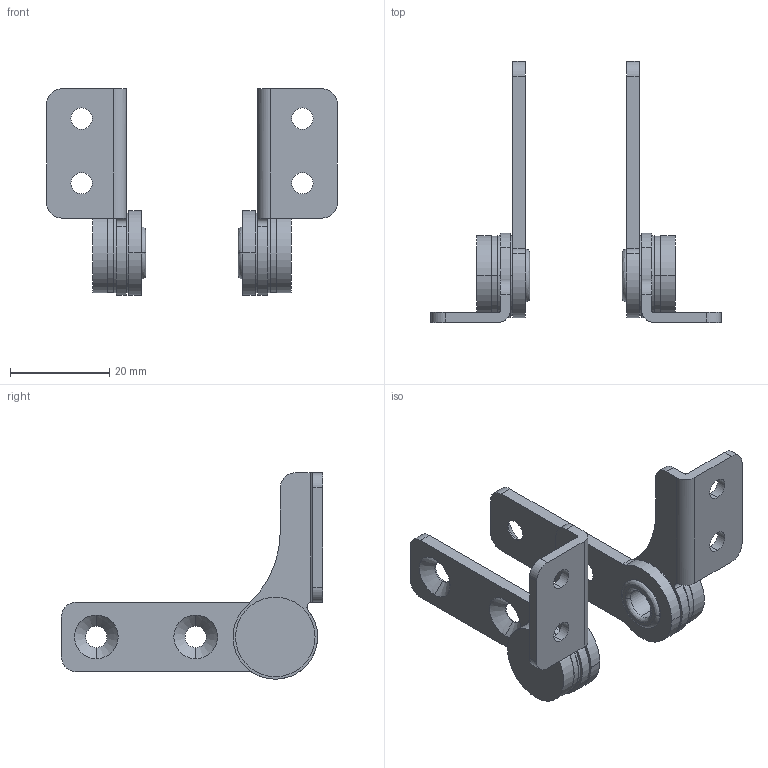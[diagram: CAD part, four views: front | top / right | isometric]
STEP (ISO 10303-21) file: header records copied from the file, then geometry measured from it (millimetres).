
FILE_DESCRIPTION (( 'STEP AP203' ), '1' );
FILE_NAME ('XG11-009-1.STEP', '2023-12-04T06:16:13', ( '' ), ( '' ), 'SwSTEP 2.0', 'SolidWorks 2020', '' );
FILE_SCHEMA (( 'CONFIG_CONTROL_DESIGN' ));
Length unit declared in the file: millimetre
Products named in the file (13): 噩砃SC170-00981_F_plate20A; 噩砃SC170-00985_springW-20^噩砃DP-010-01L(2)1; DP-010-01L(2); SC170-00983_bracket_B-L(20_E30); 噩砃DP-010-01L(2)1; SC170-00993_HG-TB20_shaft; 噩砃SC170-00993_HG-TB20_shaft; SC170-00981_F_plate20A; XG11-009-1; 噩砃SC170-00991_HG-TB20_arm; SC170-00985_springW-20^DP-010-01L(2); 噩砃SC170-00983_bracket_B-L(20_E30); SC170-00991_HG-TB20_arm
Assembly tree (14 placements, depth 3):
  XG11-009-1
    DP-010-01L(2)
      SC170-00983_bracket_B-L(20_E30)
      SC170-00991_HG-TB20_arm
      SC170-00981_F_plate20A  x2
      SC170-00993_HG-TB20_shaft
      SC170-00985_springW-20^DP-010-01L(2)
    噩砃DP-010-01L(2)1
      噩砃SC170-00983_bracket_B-L(20_E30)
      噩砃SC170-00991_HG-TB20_arm
      噩砃SC170-00981_F_plate20A  x2
      噩砃SC170-00993_HG-TB20_shaft
      噩砃SC170-00985_springW-20^噩砃DP-010-01L(2)1
Bounding box: 58.4 x 52.5 x 41.5 mm (x, y, z)
Volume: 8338.1 mm3; surface area: 11000.3 mm2
Topology: 12 solids, 12 shells, 172 faces, 418 edges, 272 vertices
Faces by surface type: cylinder 104, plane 48, cone 12, bspline 8
Entity records: 6407 total; most frequent: CARTESIAN_POINT 993, DIRECTION 926, ORIENTED_EDGE 780, EDGE_CURVE 390, AXIS2_PLACEMENT_3D 381, VERTEX_POINT 256, CIRCLE 210, EDGE_LOOP 198
